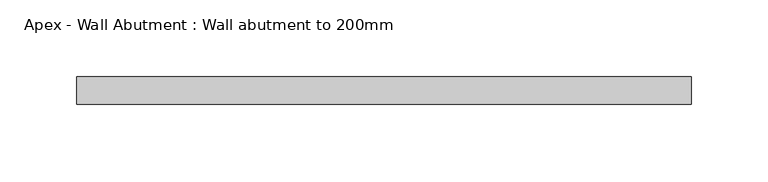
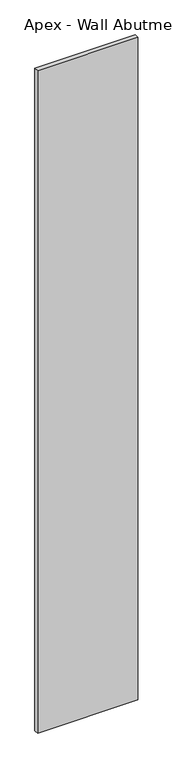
"""IFC4 building model written with IfcOpenShell, lengths in millimetres: furniture geometry, Apex - Wall Abutment : Wall abutment to 200mm."""

from ifc_helpers import new_model, si_unit, origin, origin_with_axes, place, context, project, spatial, polyline, outline, extrude, source, transform, mapped, element, save


def apex_wall_abutment_wall_abutment_to_200mm_a4d255e4(model_context):
    return source(origin(), model_context, "Body", "SweptSolid", [
        extrude(outline(polyline([(401.0, 0.0), (401.0, -18.0), (0.0, -18.0), (0.0, 0.0), (401.0, 0.0)])), origin_with_axes(), (0.0, 0.0, 1.0), 2800.0),
    ])


if __name__ == "__main__":
    model = new_model("IFC4")
    model_context = context("Model", 3, world=origin())
    ifc_project = project(units=[si_unit("LENGTHUNIT", "METRE", prefix="MILLI")], contexts=[model_context])
    site = spatial("IfcSite", under=ifc_project)
    building = spatial("IfcBuilding", under=site)
    placement = place(None, origin())
    apex_wall_abutment_wall_abutment_to_200mm_shape = apex_wall_abutment_wall_abutment_to_200mm_a4d255e4(model_context)
    element("IfcFurniture", 1, ObjectType="Apex - Wall Abutment : Wall abutment to 200mm", at=placement, inside=building, context=model_context, shape_type="MappedRepresentation", body=[
        mapped(apex_wall_abutment_wall_abutment_to_200mm_shape, transform((0.0, 0.0, 0.0), x_axis=(1.0, 0.0, 0.0), y_axis=(0.0, 1.0, 0.0), z_axis=(0.0, 0.0, 1.0))),
    ])
    save(model, "model.ifc")
